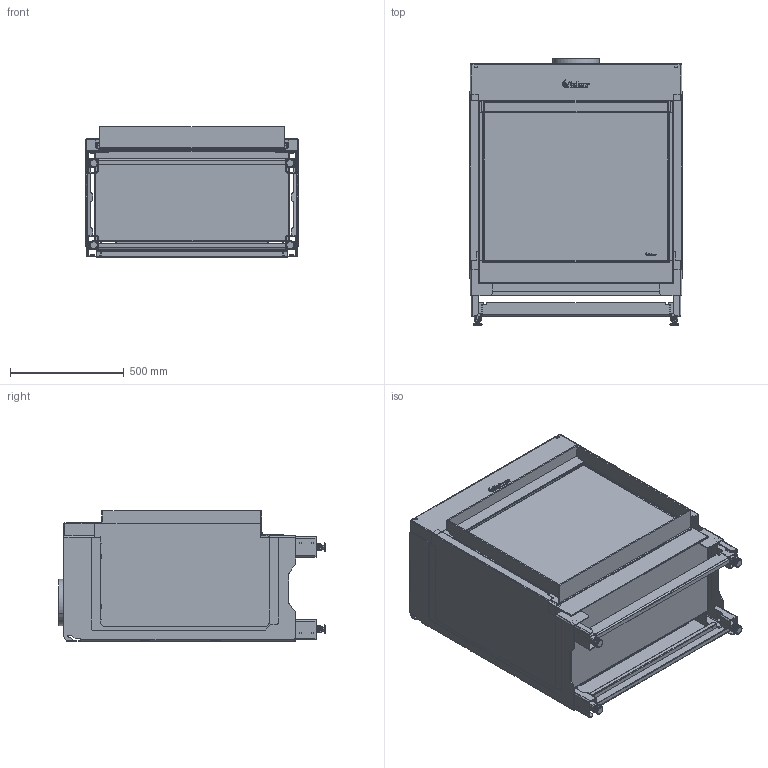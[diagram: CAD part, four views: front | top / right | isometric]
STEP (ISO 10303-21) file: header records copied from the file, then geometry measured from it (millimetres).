
FILE_DESCRIPTION (( 'STEP AP214' ), '1' );
FILE_NAME ('Faber MatriX Hybrid 800x650 I.STEP', '2022-06-01T06:59:13', ( '' ), ( '' ), 'SwSTEP 2.0', 'SolidWorks 2021', '' );
FILE_SCHEMA (( 'AUTOMOTIVE_DESIGN' ));
Length unit declared in the file: millimetre
Products named in the file (1): Faber MatriX Hybrid 800x650 I
Bounding box: 935 x 1173.2 x 574 mm (x, y, z)
Volume: 18734916.7 mm3; surface area: 16590776 mm2
Topology: 48 solids, 52 shells, 2780 faces, 7164 edges, 4450 vertices
Faces by surface type: plane 1663, cylinder 864, bspline 123, cone 108, torus 22
Entity records: 103118 total; most frequent: CARTESIAN_POINT 35436, ORIENTED_EDGE 14270, DIRECTION 13660, EDGE_CURVE 7135, VECTOR 4836, LINE 4836, VERTEX_POINT 4445, AXIS2_PLACEMENT_3D 4412
